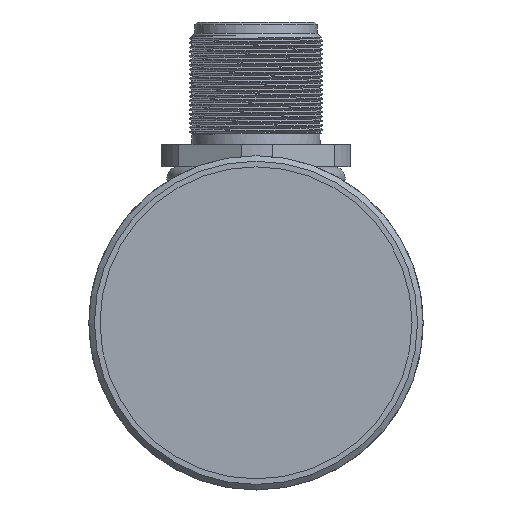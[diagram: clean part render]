
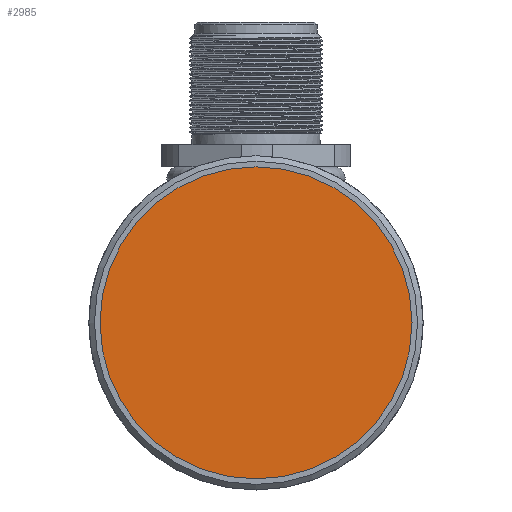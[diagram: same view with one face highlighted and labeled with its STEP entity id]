
A CAD part, left-side view. The second image highlights one B-rep face of the part: STEP entity #2985.
In plain terms, the highlighted planar face has unit normal (-1, 0, 0).
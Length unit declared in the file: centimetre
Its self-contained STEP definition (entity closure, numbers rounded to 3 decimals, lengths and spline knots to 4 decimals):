
#537=CIRCLE('',#3193,1.4);
#636=VERTEX_POINT('',#3956);
#1187=EDGE_CURVE('',#636,#636,#537,.T.);
#1623=ORIENTED_EDGE('',*,*,#1187,.T.);
#2478=EDGE_LOOP('',(#1623));
#2733=FACE_BOUND('',#2478,.T.);
#2985=ADVANCED_FACE('',(#2733),#18641,.T.);
#3193=AXIS2_PLACEMENT_3D('',#3955,#3431,#3432);
#3195=AXIS2_PLACEMENT_3D('',#3959,#3435,$);
#3431=DIRECTION('',(-1.,0.,0.));
#3432=DIRECTION('',(0.,0.,1.4));
#3435=DIRECTION('',(-1.,0.,0.));
#3955=CARTESIAN_POINT('',(0.1,0.,0.));
#3956=CARTESIAN_POINT('',(0.1,0.,1.4));
#3959=CARTESIAN_POINT('',(0.1,0.,0.));
#18641=PLANE('',#3195);
